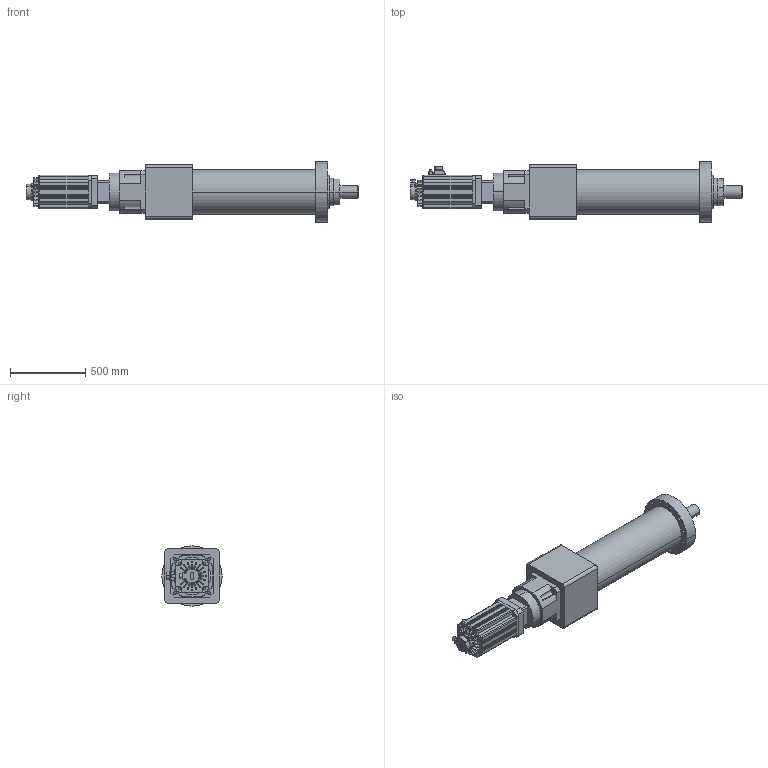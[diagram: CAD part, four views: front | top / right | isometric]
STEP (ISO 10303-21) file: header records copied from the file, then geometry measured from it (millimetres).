
FILE_DESCRIPTION (( 'STEP AP203' ), '1' );
FILE_NAME ('S12眻盄ヶ楊擘假蚾.STEP', '2024-08-16T07:09:45', ( '' ), ( '' ), 'SwSTEP 2.0', 'SolidWorks 2018', '' );
FILE_SCHEMA (( 'CONFIG_CONTROL_DESIGN' ));
Length unit declared in the file: millimetre
Products named in the file (4): S12眻盄ヶ楊擘; ECMA-F1221BS3-220框號系列機種-11KW高慣量系列; 000; S12眻盄ヶ楊擘假蚾
Assembly tree (3 placements, depth 2):
  S12眻盄ヶ楊擘假蚾
    S12眻盄ヶ楊擘
    000
    ECMA-F1221BS3-220框號系列機種-11KW高慣量系列
Bounding box: 2206.5 x 400 x 400 mm (x, y, z)
Volume: 128645433.5 mm3; surface area: 3025175.5 mm2
Topology: 2 solids, 8 shells, 906 faces, 2352 edges, 1518 vertices
Faces by surface type: plane 430, cylinder 325, cone 112, bspline 18, torus 13, sphere 8
Entity records: 30185 total; most frequent: CARTESIAN_POINT 7670, DIRECTION 4633, ORIENTED_EDGE 4416, EDGE_CURVE 2350, AXIS2_PLACEMENT_3D 1709, VERTEX_POINT 1518, LINE 1215, VECTOR 1215
